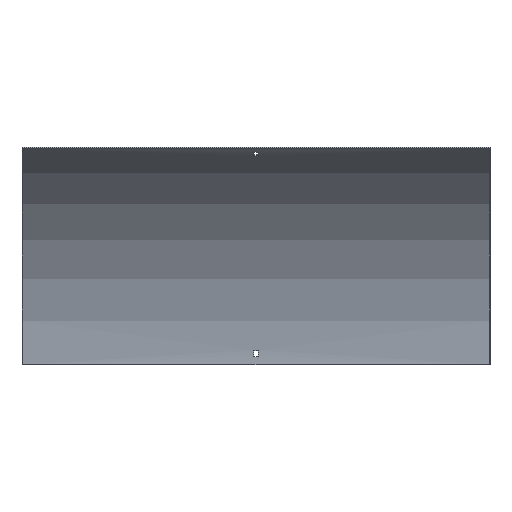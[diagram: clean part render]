
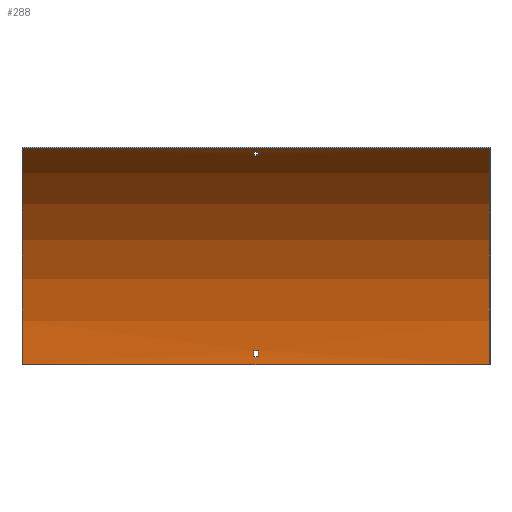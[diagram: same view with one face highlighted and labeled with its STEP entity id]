
A CAD part, front view. The second image highlights one B-rep face of the part: STEP entity #288.
In plain terms, the highlighted cylindrical face has radius 375 mm (diameter 750 mm), a partial arc.
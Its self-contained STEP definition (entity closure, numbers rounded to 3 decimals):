
#6 = DIRECTION ( 'NONE',  ( 1., 0., 0. ) ) ;
#8 = CARTESIAN_POINT ( 'NONE',  ( -350., -376.5, 0. ) ) ;
#10 = LINE ( 'NONE', #51, #527 ) ;
#15 = VERTEX_POINT ( 'NONE', #592 ) ;
#17 = VECTOR ( 'NONE', #565, 1000. ) ;
#31 = EDGE_CURVE ( 'NONE', #201, #599, #81, .T. ) ;
#37 = ORIENTED_EDGE ( 'NONE', *, *, #242, .T. ) ;
#45 = DIRECTION ( 'NONE',  ( -1., 0., 0. ) ) ;
#51 = CARTESIAN_POINT ( 'NONE',  ( 351.5, -171.108, 313.75 ) ) ;
#58 = ORIENTED_EDGE ( 'NONE', *, *, #158, .F. ) ;
#60 = AXIS2_PLACEMENT_3D ( 'NONE', #8, #190, #373 ) ;
#62 = DIRECTION ( 'NONE',  ( -1., 0., 0. ) ) ;
#65 = EDGE_LOOP ( 'NONE', ( #120, #178, #37, #576 ) ) ;
#67 = EDGE_LOOP ( 'NONE', ( #406, #58, #452, #501 ) ) ;
#69 = LINE ( 'NONE', #113, #167 ) ;
#81 = CIRCLE ( 'NONE', #162, 375. ) ;
#86 = CARTESIAN_POINT ( 'NONE',  ( 3.25, -376.5, 0. ) ) ;
#87 = EDGE_CURVE ( 'NONE', #341, #484, #403, .T. ) ;
#113 = CARTESIAN_POINT ( 'NONE',  ( 351.5, -178.704, 318.593 ) ) ;
#114 = VECTOR ( 'NONE', #423, 1000. ) ;
#115 = AXIS2_PLACEMENT_3D ( 'NONE', #232, #6, #234 ) ;
#120 = ORIENTED_EDGE ( 'NONE', *, *, #245, .F. ) ;
#124 = AXIS2_PLACEMENT_3D ( 'NONE', #281, #466, #271 ) ;
#127 = VERTEX_POINT ( 'NONE', #394 ) ;
#131 = EDGE_CURVE ( 'NONE', #127, #310, #564, .T. ) ;
#136 = LINE ( 'NONE', #416, #192 ) ;
#140 = EDGE_CURVE ( 'NONE', #599, #127, #10, .T. ) ;
#149 = FACE_BOUND ( 'NONE', #256, .T. ) ;
#153 = CARTESIAN_POINT ( 'NONE',  ( 3.25, -1.692, 12. ) ) ;
#157 = CARTESIAN_POINT ( 'NONE',  ( -350., -1.5, 0. ) ) ;
#158 = EDGE_CURVE ( 'NONE', #244, #15, #136, .T. ) ;
#160 = DIRECTION ( 'NONE',  ( 0., 0., 1. ) ) ;
#162 = AXIS2_PLACEMENT_3D ( 'NONE', #86, #45, #463 ) ;
#164 = FACE_OUTER_BOUND ( 'NONE', #65, .T. ) ;
#167 = VECTOR ( 'NONE', #213, 1000. ) ;
#169 = CARTESIAN_POINT ( 'NONE',  ( -3.25, -376.5, 0. ) ) ;
#178 = ORIENTED_EDGE ( 'NONE', *, *, #369, .F. ) ;
#190 = DIRECTION ( 'NONE',  ( 1., 0., 0. ) ) ;
#192 = VECTOR ( 'NONE', #377, 1000. ) ;
#201 = VERTEX_POINT ( 'NONE', #517 ) ;
#213 = DIRECTION ( 'NONE',  ( 1., 0., 0. ) ) ;
#221 = CARTESIAN_POINT ( 'NONE',  ( -350., -189., 324.76 ) ) ;
#225 = CARTESIAN_POINT ( 'NONE',  ( 350., -189., 324.76 ) ) ;
#231 = LINE ( 'NONE', #364, #17 ) ;
#232 = CARTESIAN_POINT ( 'NONE',  ( 350., -376.5, 0. ) ) ;
#234 = DIRECTION ( 'NONE',  ( 0., 0., -1. ) ) ;
#235 = DIRECTION ( 'NONE',  ( 0., 1., 0. ) ) ;
#240 = CIRCLE ( 'NONE', #457, 375. ) ;
#242 = EDGE_CURVE ( 'NONE', #584, #341, #375, .T. ) ;
#244 = VERTEX_POINT ( 'NONE', #570 ) ;
#245 = EDGE_CURVE ( 'NONE', #265, #484, #456, .T. ) ;
#256 = EDGE_LOOP ( 'NONE', ( #421, #399, #443, #541 ) ) ;
#257 = CARTESIAN_POINT ( 'NONE',  ( 351.5, -376.5, 0. ) ) ;
#265 = VERTEX_POINT ( 'NONE', #157 ) ;
#271 = DIRECTION ( 'NONE',  ( 0., 0., 1. ) ) ;
#281 = CARTESIAN_POINT ( 'NONE',  ( -3.25, -376.5, 0. ) ) ;
#288 = ADVANCED_FACE ( 'NONE', ( #539, #164, #149 ), #526, .F. ) ;
#310 = VERTEX_POINT ( 'NONE', #334 ) ;
#325 = DIRECTION ( 'NONE',  ( 1., 0., 0. ) ) ;
#334 = CARTESIAN_POINT ( 'NONE',  ( -3.25, -178.704, 318.593 ) ) ;
#338 = CARTESIAN_POINT ( 'NONE',  ( 350., -189., 324.76 ) ) ;
#339 = VERTEX_POINT ( 'NONE', #153 ) ;
#341 = VERTEX_POINT ( 'NONE', #338 ) ;
#364 = CARTESIAN_POINT ( 'NONE',  ( 351.5, -1.692, 12. ) ) ;
#369 = EDGE_CURVE ( 'NONE', #584, #265, #381, .T. ) ;
#371 = DIRECTION ( 'NONE',  ( -1., 0., 0. ) ) ;
#373 = DIRECTION ( 'NONE',  ( 0., 0., -1. ) ) ;
#375 = CIRCLE ( 'NONE', #115, 375. ) ;
#377 = DIRECTION ( 'NONE',  ( -1., 0., 0. ) ) ;
#380 = VERTEX_POINT ( 'NONE', #476 ) ;
#381 = LINE ( 'NONE', #514, #114 ) ;
#394 = CARTESIAN_POINT ( 'NONE',  ( -3.25, -171.108, 313.75 ) ) ;
#398 = VECTOR ( 'NONE', #407, 1000. ) ;
#399 = ORIENTED_EDGE ( 'NONE', *, *, #131, .T. ) ;
#403 = LINE ( 'NONE', #225, #398 ) ;
#405 = CIRCLE ( 'NONE', #124, 375. ) ;
#406 = ORIENTED_EDGE ( 'NONE', *, *, #587, .F. ) ;
#407 = DIRECTION ( 'NONE',  ( -1., 0., 0. ) ) ;
#408 = DIRECTION ( 'NONE',  ( 1., 0., 0. ) ) ;
#411 = DIRECTION ( 'NONE',  ( 0., 0., -1. ) ) ;
#416 = CARTESIAN_POINT ( 'NONE',  ( 351.5, -2.088, 21. ) ) ;
#421 = ORIENTED_EDGE ( 'NONE', *, *, #140, .T. ) ;
#423 = DIRECTION ( 'NONE',  ( -1., 0., 0. ) ) ;
#443 = ORIENTED_EDGE ( 'NONE', *, *, #459, .T. ) ;
#452 = ORIENTED_EDGE ( 'NONE', *, *, #524, .F. ) ;
#456 = CIRCLE ( 'NONE', #60, 375. ) ;
#457 = AXIS2_PLACEMENT_3D ( 'NONE', #460, #408, #411 ) ;
#459 = EDGE_CURVE ( 'NONE', #310, #201, #69, .T. ) ;
#460 = CARTESIAN_POINT ( 'NONE',  ( 3.25, -376.5, 0. ) ) ;
#463 = DIRECTION ( 'NONE',  ( 0., 0., 1. ) ) ;
#466 = DIRECTION ( 'NONE',  ( -1., 0., 0. ) ) ;
#476 = CARTESIAN_POINT ( 'NONE',  ( -3.25, -1.692, 12. ) ) ;
#484 = VERTEX_POINT ( 'NONE', #221 ) ;
#501 = ORIENTED_EDGE ( 'NONE', *, *, #535, .F. ) ;
#514 = CARTESIAN_POINT ( 'NONE',  ( 350., -1.5, 0. ) ) ;
#517 = CARTESIAN_POINT ( 'NONE',  ( 3.25, -178.704, 318.593 ) ) ;
#520 = AXIS2_PLACEMENT_3D ( 'NONE', #257, #62, #160 ) ;
#524 = EDGE_CURVE ( 'NONE', #339, #244, #240, .T. ) ;
#526 = CYLINDRICAL_SURFACE ( 'NONE', #520, 375. ) ;
#527 = VECTOR ( 'NONE', #371, 1000. ) ;
#535 = EDGE_CURVE ( 'NONE', #380, #339, #231, .T. ) ;
#539 = FACE_BOUND ( 'NONE', #67, .T. ) ;
#541 = ORIENTED_EDGE ( 'NONE', *, *, #31, .T. ) ;
#556 = CARTESIAN_POINT ( 'NONE',  ( 3.25, -171.108, 313.75 ) ) ;
#564 = CIRCLE ( 'NONE', #595, 375. ) ;
#565 = DIRECTION ( 'NONE',  ( 1., 0., 0. ) ) ;
#567 = CARTESIAN_POINT ( 'NONE',  ( 350., -1.5, 0. ) ) ;
#570 = CARTESIAN_POINT ( 'NONE',  ( 3.25, -2.088, 21. ) ) ;
#576 = ORIENTED_EDGE ( 'NONE', *, *, #87, .T. ) ;
#584 = VERTEX_POINT ( 'NONE', #567 ) ;
#587 = EDGE_CURVE ( 'NONE', #15, #380, #405, .T. ) ;
#592 = CARTESIAN_POINT ( 'NONE',  ( -3.25, -2.088, 21. ) ) ;
#595 = AXIS2_PLACEMENT_3D ( 'NONE', #169, #325, #235 ) ;
#599 = VERTEX_POINT ( 'NONE', #556 ) ;
